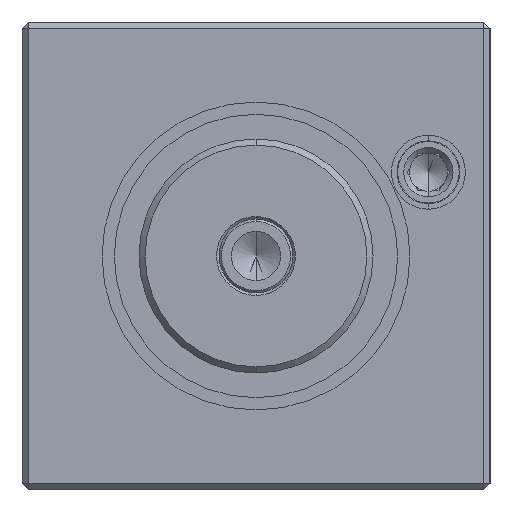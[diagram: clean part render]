
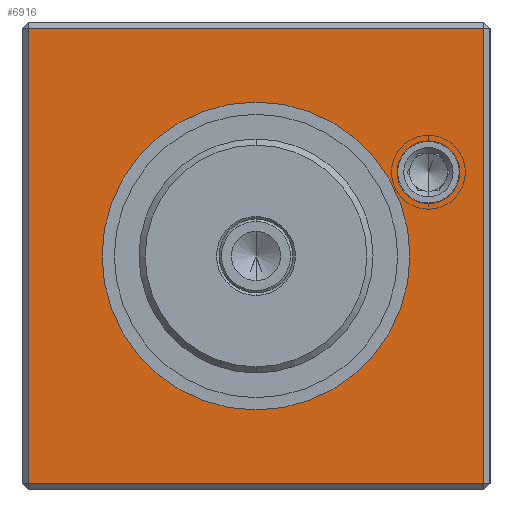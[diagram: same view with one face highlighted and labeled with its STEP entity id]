
A CAD part, left-side view. The second image highlights one B-rep face of the part: STEP entity #6916.
In plain terms, the highlighted planar face has unit normal (-1, 0, 0).
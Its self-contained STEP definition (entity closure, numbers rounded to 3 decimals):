
#5753 = EDGE_CURVE ( 'NONE', #8186, #8187, #23650, .T. ) ;
#5754 = EDGE_CURVE ( 'NONE', #8185, #8186, #23653, .T. ) ;
#5755 = EDGE_CURVE ( 'NONE', #8187, #8188, #23656, .T. ) ;
#5756 = EDGE_CURVE ( 'NONE', #8188, #8185, #23659, .T. ) ;
#5757 = EDGE_CURVE ( 'NONE', #7994, #7993, #11795, .T. ) ;
#5758 = EDGE_CURVE ( 'NONE', #8108, #8107, #11796, .T. ) ;
#5902 = EDGE_CURVE ( 'NONE', #8107, #8108, #11851, .T. ) ;
#6061 = EDGE_LOOP ( 'NONE', ( #6500, #6504, #6503, #6505 ) ) ;
#6062 = EDGE_LOOP ( 'NONE', ( #6507, #6509 ) ) ;
#6063 = EDGE_LOOP ( 'NONE', ( #6506, #6510 ) ) ;
#6500 = ORIENTED_EDGE ( 'NONE', *, *, #5754, .T. ) ;
#6503 = ORIENTED_EDGE ( 'NONE', *, *, #5755, .T. ) ;
#6504 = ORIENTED_EDGE ( 'NONE', *, *, #5753, .T. ) ;
#6505 = ORIENTED_EDGE ( 'NONE', *, *, #5756, .T. ) ;
#6506 = ORIENTED_EDGE ( 'NONE', *, *, #5758, .F. ) ;
#6507 = ORIENTED_EDGE ( 'NONE', *, *, #5757, .F. ) ;
#6509 = ORIENTED_EDGE ( 'NONE', *, *, #6863, .F. ) ;
#6510 = ORIENTED_EDGE ( 'NONE', *, *, #5902, .F. ) ;
#6863 = EDGE_CURVE ( 'NONE', #7993, #7994, #11885, .T. ) ;
#6916 = ADVANCED_FACE ( 'NONE', ( #21891, #21880, #21896 ), #24909, .F. ) ;
#7993 = VERTEX_POINT ( 'NONE', #29311 ) ;
#7994 = VERTEX_POINT ( 'NONE', #29312 ) ;
#8107 = VERTEX_POINT ( 'NONE', #29425 ) ;
#8108 = VERTEX_POINT ( 'NONE', #29426 ) ;
#8185 = VERTEX_POINT ( 'NONE', #29503 ) ;
#8186 = VERTEX_POINT ( 'NONE', #29504 ) ;
#8187 = VERTEX_POINT ( 'NONE', #29505 ) ;
#8188 = VERTEX_POINT ( 'NONE', #29506 ) ;
#11795 = CIRCLE ( 'NONE', #21602, 2.5 ) ;
#11796 = CIRCLE ( 'NONE', #21596, 12.5 ) ;
#11851 = CIRCLE ( 'NONE', #21732, 12.5 ) ;
#11885 = CIRCLE ( 'NONE', #21814, 2.5 ) ;
#21596 = AXIS2_PLACEMENT_3D ( 'NONE', #23664, #23665, #23666 ) ;
#21602 = AXIS2_PLACEMENT_3D ( 'NONE', #23649, #23662, #23663 ) ;
#21603 = VECTOR ( 'NONE', #23652, 1000. ) ;
#21604 = VECTOR ( 'NONE', #23655, 1000. ) ;
#21605 = VECTOR ( 'NONE', #23658, 1000. ) ;
#21606 = VECTOR ( 'NONE', #23661, 1000. ) ;
#21732 = AXIS2_PLACEMENT_3D ( 'NONE', #24311, #24312, #24313 ) ;
#21814 = AXIS2_PLACEMENT_3D ( 'NONE', #24713, #24714, #24715 ) ;
#21880 = FACE_BOUND ( 'NONE', #6062, .T. ) ;
#21891 = FACE_OUTER_BOUND ( 'NONE', #6061, .T. ) ;
#21896 = FACE_BOUND ( 'NONE', #6063, .T. ) ;
#21898 = AXIS2_PLACEMENT_3D ( 'NONE', #24910, #24911, #24912 ) ;
#23649 = CARTESIAN_POINT ( 'NONE',  ( 0., -14., 6.8 ) ) ;
#23650 = LINE ( 'NONE', #23651, #21603 ) ;
#23651 = CARTESIAN_POINT ( 'NONE',  ( 0., -19., -18.5 ) ) ;
#23652 = DIRECTION ( 'NONE',  ( 0., -1., 0. ) ) ;
#23653 = LINE ( 'NONE', #23654, #21604 ) ;
#23654 = CARTESIAN_POINT ( 'NONE',  ( 0., 18.5, 19. ) ) ;
#23655 = DIRECTION ( 'NONE',  ( 0., 0., -1. ) ) ;
#23656 = LINE ( 'NONE', #23657, #21605 ) ;
#23657 = CARTESIAN_POINT ( 'NONE',  ( 0., -18.5, 19. ) ) ;
#23658 = DIRECTION ( 'NONE',  ( 0., 0., 1. ) ) ;
#23659 = LINE ( 'NONE', #23660, #21606 ) ;
#23660 = CARTESIAN_POINT ( 'NONE',  ( 0., -19., 18.5 ) ) ;
#23661 = DIRECTION ( 'NONE',  ( 0., 1., 0. ) ) ;
#23662 = DIRECTION ( 'NONE',  ( -1., 0., 0. ) ) ;
#23663 = DIRECTION ( 'NONE',  ( 0., 0., 1. ) ) ;
#23664 = CARTESIAN_POINT ( 'NONE',  ( 0., 0., 0. ) ) ;
#23665 = DIRECTION ( 'NONE',  ( -1., 0., 0. ) ) ;
#23666 = DIRECTION ( 'NONE',  ( 0., -1., 0. ) ) ;
#24311 = CARTESIAN_POINT ( 'NONE',  ( 0., 0., 0. ) ) ;
#24312 = DIRECTION ( 'NONE',  ( -1., 0., 0. ) ) ;
#24313 = DIRECTION ( 'NONE',  ( 0., -1., 0. ) ) ;
#24713 = CARTESIAN_POINT ( 'NONE',  ( 0., -14., 6.8 ) ) ;
#24714 = DIRECTION ( 'NONE',  ( -1., 0., 0. ) ) ;
#24715 = DIRECTION ( 'NONE',  ( 0., 0., 1. ) ) ;
#24909 = PLANE ( 'NONE',  #21898 ) ;
#24910 = CARTESIAN_POINT ( 'NONE',  ( 0., -19., 19. ) ) ;
#24911 = DIRECTION ( 'NONE',  ( 1., 0., 0. ) ) ;
#24912 = DIRECTION ( 'NONE',  ( 0., 0., -1. ) ) ;
#29311 = CARTESIAN_POINT ( 'NONE',  ( 0., -14., 4.3 ) ) ;
#29312 = CARTESIAN_POINT ( 'NONE',  ( 0., -14., 9.3 ) ) ;
#29425 = CARTESIAN_POINT ( 'NONE',  ( 0., 12.5, 0. ) ) ;
#29426 = CARTESIAN_POINT ( 'NONE',  ( 0., -12.5, 0. ) ) ;
#29503 = CARTESIAN_POINT ( 'NONE',  ( 0., 18.5, 18.5 ) ) ;
#29504 = CARTESIAN_POINT ( 'NONE',  ( 0., 18.5, -18.5 ) ) ;
#29505 = CARTESIAN_POINT ( 'NONE',  ( 0., -18.5, -18.5 ) ) ;
#29506 = CARTESIAN_POINT ( 'NONE',  ( 0., -18.5, 18.5 ) ) ;
